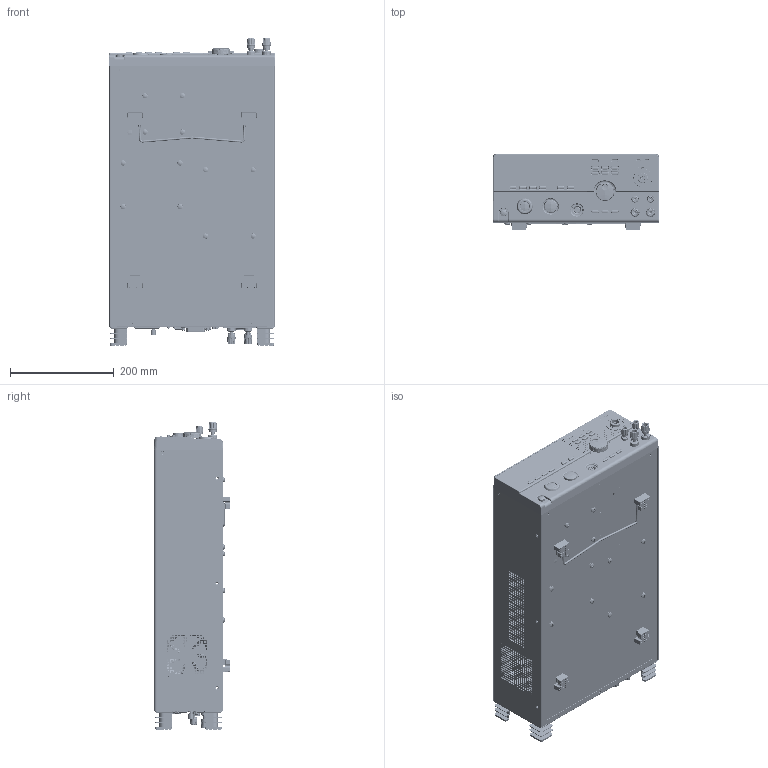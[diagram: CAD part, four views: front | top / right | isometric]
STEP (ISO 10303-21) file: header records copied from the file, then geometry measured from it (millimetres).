
FILE_DESCRIPTION((''),'2;1');
FILE_NAME('GPT9900_ASM_ASM','2019-09-04T13:34:14',('shane_wang'),(''),'CREO PARAMETRIC BY PTC INC, 2019080','CREO PARAMETRIC BY PTC INC, 2019080','');
FILE_SCHEMA(('CONFIG_CONTROL_DESIGN'));
Products named in the file (129): GPT9000_FRONT_ASM_SKEL; 63FP-SG100801; INSERT-CU-9000; 63FP-SG100801_ASM; LCD_VG240641; GFP-230XXX-3XX0X-20; GPT9000_MODEL_NP-A; 63TS-OG10010; 51PI-625NP3A; 4IN1_HVOUT_SCREW; NUT-M6; 4IN1_HVOUT_PNP-S_ASM; KEYSWITCH; REMOTE_SOCKET_YE0506; 40WA-S2BXHA01; GFP-230XXX-3XX0X-12; CONNECTOR_2LINE; KEYSWITCH_PCB_ASM_ASM; 5004-130G010; ENCODE-SW-15; GFP-230XXX-3XX0X-26; GFP-230XXX-3XX0X-8; LED-RIGHT; GPT9000_BUTTON1_PCB_ASM_ASM; SO-M3-10; 62PT-900FP101_ASM_ASM; 5005-350G0101; 57RB-40G08101; TERMINAL_SHAFT_S; TERMINAL_HEAD_S; TERMINAL_CLIP1_S; TERMINAL_CLIP2_S; NUT_M4; POLETERMINAL_B_S_ASM; POLETERMINAL_R_S_ASM; TERMINAL_SHAFT; TERMINAL_HEAD; TERMINAL_CLIP1; TERMINAL_CLIP2; POLETERMINAL_B_ASM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
Assembly tree (259 placements, depth 5):
  GPT9900_ASM_ASM
    GPT9000_FRONT_ASM_ASM
      GPT9000_FRONT_ASM_SKEL
      GPT9000_F_ASM-A_ASM
        63FP-SG100801_ASM
          63FP-SG100801
          INSERT-CU-9000  x7
        LCD_VG240641
        GFP-230XXX-3XX0X-20
        GPT9000_MODEL_NP-A
        4IN1_HVOUT_PNP-S_ASM
          63TS-OG10010
          51PI-625NP3A
          4IN1_HVOUT_SCREW
          NUT-M6  x2
        KEYSWITCH_PCB_ASM_ASM
          KEYSWITCH  x2
          REMOTE_SOCKET_YE0506
          40WA-S2BXHA01
          GFP-230XXX-3XX0X-12
          CONNECTOR_2LINE
        5004-130G010
        GPT9000_BUTTON1_PCB_ASM_ASM
          ENCODE-SW-15
          GFP-230XXX-3XX0X-26
          GFP-230XXX-3XX0X-12
          GFP-230XXX-3XX0X-8
          GFP-230XXX-3XX0X-20
          LED-RIGHT  x7
        62PT-900FP101_ASM_ASM
          SO-M3-10  x4
        5005-350G0101
        57RB-40G08101
        POLETERMINAL_B_S_ASM
          TERMINAL_SHAFT_S
          TERMINAL_HEAD_S
          TERMINAL_CLIP1_S
          TERMINAL_CLIP2_S
          NUT_M4  x2
        POLETERMINAL_R_S_ASM
          TERMINAL_SHAFT_S
          TERMINAL_HEAD_S
          TERMINAL_CLIP1_S
          TERMINAL_CLIP2_S
          NUT_M4  x2
        POLETERMINAL_B_ASM
          TERMINAL_SHAFT
          TERMINAL_HEAD
          TERMINAL_CLIP1
          TERMINAL_CLIP2
          NUT-M6  x2
        POLETERMINAL_R_ASM
          TERMINAL_SHAFT
          TERMINAL_HEAD
          TERMINAL_CLIP1
          TERMINAL_CLIP2
          NUT  x2
        GPT9000_BUTTON2_PCB-ASM_ASM
          GPT9000_BUTTON2_PCB
          57RB-40G08201
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Bounding box: 322 x 147.7 x 593.7 mm (x, y, z)
Volume: 1173719.3 mm3; surface area: 1597052.3 mm2
Topology: 257 solids, 257 shells, 20401 faces, 52237 edges, 33197 vertices
Faces by surface type: plane 11006, cylinder 6341, cone 1434, bspline 900, torus 527, sphere 173, extrusion 17, revolution 3
Entity records: 419614 total; most frequent: CARTESIAN_POINT 137134, ORIENTED_EDGE 58166, DIRECTION 57930, EDGE_CURVE 29083, AXIS2_PLACEMENT_3D 20243, VERTEX_POINT 18604, VECTOR 17442, LINE 17425
